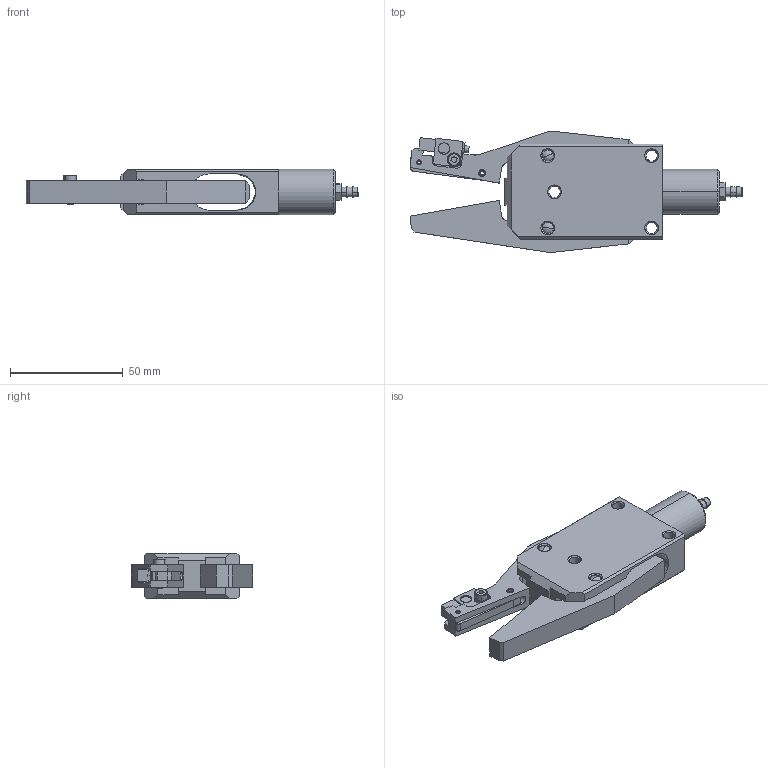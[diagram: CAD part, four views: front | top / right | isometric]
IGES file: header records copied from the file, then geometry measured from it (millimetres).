
Start section: SolidWorks IGES file using analytic representation for surfaces
Global section: file name: C:\Documents and Settings\CAD54\デスクトップ\022880\022880.IGS; native system: SolidWorks 2006 by SolidWorks Corporation; preprocessor: SolidWorks 2006 by SolidWorks Corporation; author: CAD54; date: 090107.100020; units: millimetre
Bounding box: 146.96 x 53.68 x 20 mm (x, y, z)
Surface area: 23950.6 mm2 (no closed solid volume)
Topology: 0 solids, 0 shells, 237 faces, 3382 edges, 3379 vertices
Faces by surface type: bspline 130, revolution 107
